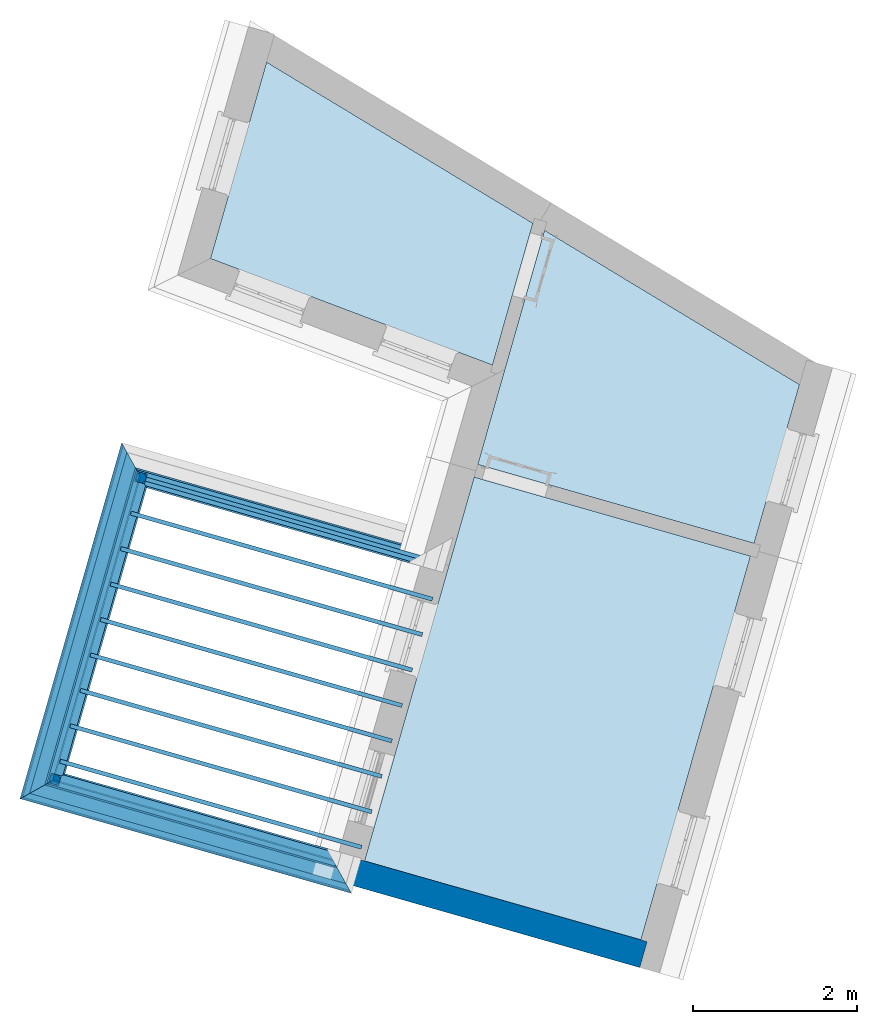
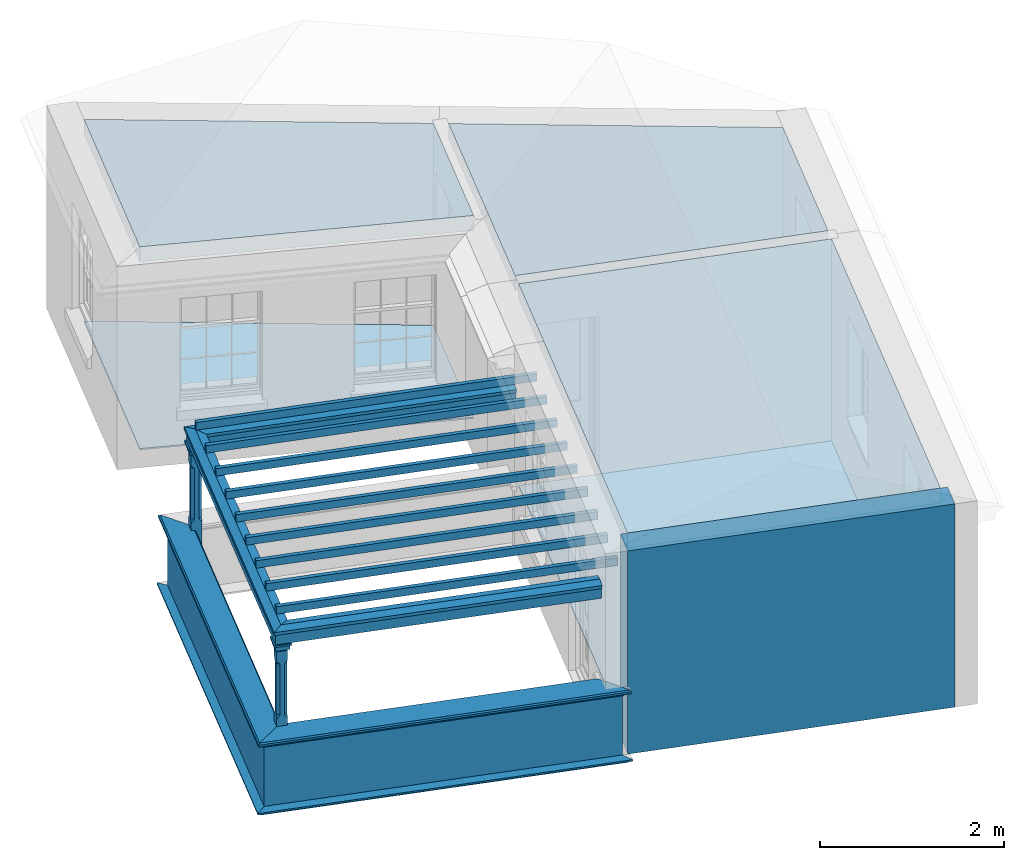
# One storey, part 1 of 5: 15 beams, 7 walls, 5 slabs, 2 columns.
"""IFC4 building model written with IfcOpenShell, lengths in metres."""

from ifc_helpers import new_model, si_unit, frame, origin, origin_with_axes, place, context, subcontext, project, spatial, polyline, outline, extrude, clip, halfspace, faceted_brep, source, transform, mapped, material, layer, layer_set, layer_usage, material_profile, profile_set, profile_usage, type_object, type_shapes, element, save


model = new_model("IFC4")

# Units and contexts
model_context = context("Model", 3, world=origin_with_axes())
body_context = subcontext(model_context, "Body", "Model", "MODEL_VIEW")
ifc_project = project(units=[si_unit("PLANEANGLEUNIT", "RADIAN"), si_unit("MASSUNIT", "GRAM", prefix="KILO"), si_unit("FORCEUNIT", "NEWTON", prefix="KILO"), si_unit("LENGTHUNIT", "METRE"), si_unit("AREAUNIT", "SQUARE_METRE"), si_unit("VOLUMEUNIT", "CUBIC_METRE")], contexts=[model_context, model_context])

# Sites, building, storey
site_1_placement = place(None, origin_with_axes())
site_1 = spatial("IfcSite", under=ifc_project, at=site_1_placement, Name="Tamar")
site_2_placement = place(site_1_placement, origin_with_axes())
site_2 = spatial("IfcSite", under=site_1, at=site_2_placement, Name="Site plot-19", CompositionType="ELEMENT")
building_placement = place(None, origin_with_axes())
building = spatial("IfcBuilding", under=site_2, at=building_placement, Name="Building plot-19", CompositionType="ELEMENT")
storey_placement = place(None, frame((0.0, 0.0, 30.4), z_axis=(0.0, 0.0, 1.0), x_axis=(1.0, 0.0, 0.0)))
storey = spatial("IfcBuildingStorey", under=building, at=storey_placement, Name="plot-19 1", CompositionType="ELEMENT", Elevation=30.4)

# Columns
column_type = type_object("IfcColumnType", Name="pergola post", PredefinedType="NOTDEFINED")
shared_shape = source(origin(), body_context, "Body", "Brep", [
    faceted_brep([(0.0246, -0.0615, 1.72), (0.0615, -0.0246, 1.72), (0.0615, -0.0615, 1.766667), (0.0615, -0.0246, 1.044444), (0.0246, -0.0615, 1.044444), (0.0615, 0.0246, 1.72), (0.0615, 0.0615, 1.766667), (-0.0246, -0.0615, 1.72), (-0.0615, -0.0615, 1.766667), (-0.0246, -0.0615, 1.044444), (0.0615, -0.0615, 0.997778), (0.0615, 0.0246, 1.044444), (0.0246, 0.0615, 1.72), (0.0615, 0.0615, 1.891111), (0.0615, -0.0615, 1.891111), (-0.0615, -0.0615, 1.891111), (-0.0615, -0.0246, 1.72), (-0.0615, -0.0246, 1.044444), (-0.0615, -0.0615, 0.997778), (0.0615, 0.0615, 0.997778), (0.0246, 0.0615, 1.044444), (-0.0246, 0.0615, 1.72), (-0.0615, 0.0615, 1.766667), (0.04305, 0.04305, 1.891111), (0.04305, -0.04305, 1.891111), (-0.0615, 0.0615, 1.891111), (-0.04305, -0.04305, 1.891111), (-0.0615, 0.0246, 1.72), (-0.0615, 0.0246, 1.044444), (0.0615, -0.0615, 0.053333), (-0.0615, -0.0615, 0.053333), (0.0615, 0.0615, 0.053333), (-0.0246, 0.0615, 1.044444), (-0.04305, 0.04305, 1.891111), (0.04305, 0.04305, 1.914444), (0.04305, -0.04305, 1.914444), (-0.04305, -0.04305, 1.914444), (-0.0615, 0.0615, 0.997778), (-0.0615, 0.0615, 0.053333), (-0.04305, -0.04305, 0.053333), (0.04305, -0.04305, 0.053333), (0.04305, 0.04305, 0.053333), (-0.04305, 0.04305, 1.914444), (0.07995, 0.07995, 1.914444), (0.07995, -0.07995, 1.914444), (-0.07995, -0.07995, 1.914444), (-0.04305, 0.04305, 0.053333), (-0.04305, -0.04305, 0.0), (0.04305, -0.04305, 0.0), (0.04305, 0.04305, 0.0), (-0.07995, 0.07995, 1.914444), (0.07995, 0.07995, 1.976667), (0.07995, -0.07995, 1.976667), (-0.07995, -0.07995, 1.976667), (-0.04305, 0.04305, 0.0), (-0.07995, 0.07995, 1.976667), (0.0984, 0.0984, 1.976667), (0.0984, -0.0984, 1.976667), (-0.0984, -0.0984, 1.976667), (-0.0984, 0.0984, 1.976667), (0.0984, 0.0984, 2.0), (0.0984, -0.0984, 2.0), (-0.0984, -0.0984, 2.0), (-0.0984, 0.0984, 2.0)], [[[0, 1, 2]], [[3, 1, 0, 4]], [[1, 5, 6, 2]], [[7, 0, 2, 8]], [[4, 0, 7, 9]], [[3, 4, 10]], [[1, 3, 11, 5]], [[5, 12, 6]], [[13, 14, 2, 6]], [[15, 8, 2, 14]], [[8, 16, 7]], [[9, 7, 16, 17]], [[9, 18, 10, 4]], [[3, 10, 19, 11]], [[20, 12, 5, 11]], [[21, 22, 6, 12]], [[14, 13, 23, 24]], [[13, 6, 22, 25]], [[25, 22, 8, 15]], [[26, 15, 14, 24]], [[16, 8, 22, 27]], [[27, 28, 17, 16]], [[17, 18, 9]], [[29, 10, 18, 30]], [[31, 19, 10, 29]], [[20, 11, 19]], [[12, 20, 32, 21]], [[21, 27, 22]], [[33, 23, 13, 25]], [[23, 34, 35, 24]], [[26, 33, 25, 15]], [[36, 26, 24, 35]], [[28, 27, 21, 32]], [[17, 28, 37, 18]], [[38, 30, 18, 37]], [[29, 30, 39, 40]], [[31, 38, 37, 19]], [[40, 41, 31, 29]], [[32, 20, 19, 37]], [[33, 42, 34, 23]], [[43, 44, 35, 34]], [[42, 33, 26, 36]], [[36, 35, 44, 45]], [[28, 32, 37]], [[46, 39, 30, 38]], [[39, 47, 48, 40]], [[46, 38, 31, 41]], [[49, 41, 40, 48]], [[43, 34, 42, 50]], [[43, 51, 52, 44]], [[45, 50, 42, 36]], [[53, 45, 44, 52]], [[46, 54, 47, 39]], [[54, 46, 41, 49]], [[50, 55, 51, 43]], [[56, 57, 52, 51]], [[55, 50, 45, 53]], [[53, 52, 57, 58]], [[56, 51, 55, 59]], [[56, 60, 61, 57]], [[58, 59, 55, 53]], [[62, 58, 57, 61]], [[59, 63, 60, 56]], [[63, 62, 61, 60]], [[58, 62, 63, 59]], [[47, 54, 49, 48]]]),
])
type_shapes(column_type, [shared_shape])
for number, where, z_axis, x_axis, name in (
    (1, (276.374981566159, 299.095240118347, 0.0), (0.0, 0.0, 1.0), (-0.27456811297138, -0.961567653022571, 0.0), "pergola post"),
    (2, (275.323290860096, 295.412103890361, 0.0), (0.0, 0.0, 1.0), (0.961567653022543, -0.274568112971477, 0.0), "pergola post"),
):
    element("IfcColumn", number, at=place(storey_placement, frame(where, z_axis=z_axis, x_axis=x_axis)), inside=storey, type_object=column_type, Name=name, context=body_context, shape_type="MappedRepresentation", body=[
        mapped(shared_shape, transform((0.0, 0.0, 0.0), scale=1.0)),
    ])

# Beams
ifc_material_profile_1 = material_profile(None, outline(polyline([(-0.08, -0.7), (0.08, -0.7), (0.08, -0.56), (-0.08, -0.56), (-0.08, -0.7)])))
ifc_profile_set_1 = profile_set([ifc_material_profile_1])
ifc_profile_usage_1 = profile_usage(ifc_profile_set_1)
beam_type_1 = type_object("IfcBeamType", Name="pergola beam_0", PredefinedType="NOTDEFINED", material=ifc_profile_set_1)
beam_1_placement = place(storey_placement, frame((275.413413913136, 299.369808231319, 2.7), z_axis=(0.96156765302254, -0.27456811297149, 0.0), x_axis=(0.27456811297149, 0.96156765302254, 0.0)))
element("IfcBeam", 3, at=beam_1_placement, inside=storey, type_object=beam_type_1, material=ifc_profile_usage_1, Name="pergola beam_0", context=body_context, shape_type="Clipping", body=[
    clip(clip(extrude(outline(polyline([(-0.08, -0.7), (0.08, -0.7), (0.08, -0.56), (-0.08, -0.56), (-0.08, -0.7)])), origin_with_axes(), (0.0, 0.0, 1.0), 5.57875062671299), halfspace(frame((0.0, 0.0, 4.57875062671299), z_axis=(1.72582468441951e-14, 0.0, -1.0), x_axis=(0.0, 1.0, 0.0)), True)), halfspace(frame((0.0, 0.0, 1.0), z_axis=(-0.707106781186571, 0.0, -0.707106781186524), x_axis=(0.0, 1.0, 0.0)), False)),
])
ifc_profile_usage_2 = profile_usage(ifc_profile_set_1)
beam_2_placement = place(storey_placement, frame((275.048722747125, 294.450536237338, 2.7), z_axis=(0.274568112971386, 0.961567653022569, 0.0), x_axis=(-0.961567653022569, 0.274568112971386, 0.0)))
element("IfcBeam", 4, at=beam_2_placement, inside=storey, type_object=beam_type_1, material=ifc_profile_usage_2, Name="pergola beam_0", context=body_context, shape_type="Clipping", body=[
    clip(clip(extrude(outline(polyline([(-0.08, -0.7), (0.08, -0.7), (0.08, -0.56), (-0.08, -0.56), (-0.08, -0.7)])), origin_with_axes(), (0.0, 0.0, 1.0), 5.83034539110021), halfspace(frame((0.0, 0.0, 4.83034539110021), z_axis=(0.7071067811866, 0.0, -0.707106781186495), x_axis=(0.0, 1.0, 0.0)), True)), halfspace(frame((0.0, 0.0, 1.0), z_axis=(-0.707106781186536, 0.0, -0.707106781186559), x_axis=(0.0, 1.0, 0.0)), False)),
])
ifc_profile_usage_3 = profile_usage(ifc_profile_set_1)
beam_3_placement = place(storey_placement, frame((279.726069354, 294.154924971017, 2.7), z_axis=(-0.961567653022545, 0.274568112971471, 0.0), x_axis=(-0.274568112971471, -0.961567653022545, 0.0)))
element("IfcBeam", 5, at=beam_3_placement, inside=storey, type_object=beam_type_1, material=ifc_profile_usage_3, Name="pergola beam_0", context=body_context, shape_type="Clipping", body=[
    clip(clip(extrude(outline(polyline([(-0.08, -0.7), (0.08, -0.7), (0.08, -0.56), (-0.08, -0.56), (-0.08, -0.7)])), origin_with_axes(), (0.0, 0.0, 1.0), 5.57875062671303), halfspace(frame((0.0, 0.0, 4.57875062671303), z_axis=(0.707106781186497, 0.0, -0.707106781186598), x_axis=(0.0, 1.0, 0.0)), True)), halfspace(frame((0.0, 0.0, 1.0), z_axis=(-1.80468453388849e-14, 0.0, -1.0), x_axis=(0.0, 1.0, 0.0)), False)),
])
ifc_material_profile_2 = material_profile(None, outline(polyline([(0.0, -0.5), (-0.1, -0.52), (-0.1, -0.56), (0.1, -0.56), (0.1, -0.52), (0.0, -0.5)])))
ifc_profile_set_2 = profile_set([ifc_material_profile_2])
ifc_profile_usage_4 = profile_usage(ifc_profile_set_2)
beam_type_2 = type_object("IfcBeamType", Name="pergola beam_1", PredefinedType="NOTDEFINED", material=ifc_profile_set_2)
beam_4_placement = place(storey_placement, frame((275.413413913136, 299.369808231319, 2.7), z_axis=(0.96156765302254, -0.27456811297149, 0.0), x_axis=(0.27456811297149, 0.96156765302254, 0.0)))
element("IfcBeam", 6, at=beam_4_placement, inside=storey, type_object=beam_type_2, material=ifc_profile_usage_4, Name="pergola beam_1", context=body_context, shape_type="Clipping", body=[
    clip(clip(extrude(outline(polyline([(0.0, -0.5), (-0.1, -0.52), (-0.1, -0.56), (0.1, -0.56), (0.1, -0.52), (0.0, -0.5)])), origin_with_axes(), (0.0, 0.0, 1.0), 5.57875062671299), halfspace(frame((0.0, 0.0, 4.57875062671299), z_axis=(1.72582468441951e-14, 0.0, -1.0), x_axis=(0.0, 1.0, 0.0)), True)), halfspace(frame((0.0, 0.0, 1.0), z_axis=(-0.707106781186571, 0.0, -0.707106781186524), x_axis=(0.0, 1.0, 0.0)), False)),
])
ifc_profile_usage_5 = profile_usage(ifc_profile_set_2)
beam_5_placement = place(storey_placement, frame((275.048722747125, 294.450536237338, 2.7), z_axis=(0.274568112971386, 0.961567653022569, 0.0), x_axis=(-0.961567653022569, 0.274568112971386, 0.0)))
element("IfcBeam", 7, at=beam_5_placement, inside=storey, type_object=beam_type_2, material=ifc_profile_usage_5, Name="pergola beam_1", context=body_context, shape_type="Clipping", body=[
    clip(clip(extrude(outline(polyline([(0.0, -0.5), (-0.1, -0.52), (-0.1, -0.56), (0.1, -0.56), (0.1, -0.52), (0.0, -0.5)])), origin_with_axes(), (0.0, 0.0, 1.0), 5.83034539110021), halfspace(frame((0.0, 0.0, 4.83034539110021), z_axis=(0.7071067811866, 0.0, -0.707106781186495), x_axis=(0.0, 1.0, 0.0)), True)), halfspace(frame((0.0, 0.0, 1.0), z_axis=(-0.707106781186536, 0.0, -0.707106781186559), x_axis=(0.0, 1.0, 0.0)), False)),
])
ifc_profile_usage_6 = profile_usage(ifc_profile_set_2)
beam_6_placement = place(storey_placement, frame((279.726069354, 294.154924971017, 2.7), z_axis=(-0.961567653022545, 0.274568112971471, 0.0), x_axis=(-0.274568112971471, -0.961567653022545, 0.0)))
element("IfcBeam", 8, at=beam_6_placement, inside=storey, type_object=beam_type_2, material=ifc_profile_usage_6, Name="pergola beam_1", context=body_context, shape_type="Clipping", body=[
    clip(clip(extrude(outline(polyline([(0.0, -0.5), (-0.1, -0.52), (-0.1, -0.56), (0.1, -0.56), (0.1, -0.52), (0.0, -0.5)])), origin_with_axes(), (0.0, 0.0, 1.0), 5.57875062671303), halfspace(frame((0.0, 0.0, 4.57875062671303), z_axis=(0.707106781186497, 0.0, -0.707106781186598), x_axis=(0.0, 1.0, 0.0)), True)), halfspace(frame((0.0, 0.0, 1.0), z_axis=(-1.80468453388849e-14, 0.0, -1.0), x_axis=(0.0, 1.0, 0.0)), False)),
])
beam_7_placement = place(storey_placement, frame((276.381845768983, 299.119279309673, 2.2)))
element("IfcBeam", 9, at=beam_7_placement, inside=storey, Name="My Beam", ObjectType="Beam", context=body_context, shape_type="SweptSolid", body=[
    extrude(outline(polyline([(0.0, 0.0), (-0.0137284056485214, -0.0480783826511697), (3.66787434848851, -1.09933121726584), (3.68160275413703, -1.05125283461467), (0.0, 0.0)])), origin_with_axes(), (0.0, 0.0, 1.0), 0.1),
])
beam_8_placement = place(storey_placement, frame((276.258290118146, 298.686573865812, 2.2)))
element("IfcBeam", 10, at=beam_8_placement, inside=storey, Name="My Beam", ObjectType="Beam", context=body_context, shape_type="SweptSolid", body=[
    extrude(outline(polyline([(0.0, 0.0), (-0.0137284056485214, -0.0480783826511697), (3.66787434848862, -1.09933121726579), (3.68160275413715, -1.05125283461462), (0.0, 0.0)])), origin_with_axes(), (0.0, 0.0, 1.0), 0.1),
])
for number, where, name in (
    (11, (276.134734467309, 298.253868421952, 2.2), "My Beam"),
    (12, (276.011178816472, 297.821162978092, 2.2), "My Beam"),
):
    element("IfcBeam", number, at=place(storey_placement, frame(where)), inside=storey, Name=name, ObjectType="Beam", context=body_context, shape_type="SweptSolid", body=[
        extrude(outline(polyline([(0.0, 0.0), (-0.0137284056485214, -0.0480783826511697), (3.66787434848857, -1.09933121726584), (3.68160275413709, -1.05125283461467), (0.0, 0.0)])), origin_with_axes(), (0.0, 0.0, 1.0), 0.1),
    ])
beam_9_placement = place(storey_placement, frame((275.887623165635, 297.388457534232, 2.2)))
element("IfcBeam", 13, at=beam_9_placement, inside=storey, Name="My Beam", ObjectType="Beam", context=body_context, shape_type="SweptSolid", body=[
    extrude(outline(polyline([(0.0, 0.0), (-0.0137284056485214, -0.0480783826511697), (3.66787434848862, -1.0993312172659), (3.68160275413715, -1.05125283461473), (0.0, 0.0)])), origin_with_axes(), (0.0, 0.0, 1.0), 0.1),
])
for number, where, name in (
    (14, (275.764067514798, 296.955752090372, 2.2), "My Beam"),
    (15, (275.640511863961, 296.523046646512, 2.2), "My Beam"),
):
    element("IfcBeam", number, at=place(storey_placement, frame(where)), inside=storey, Name=name, ObjectType="Beam", context=body_context, shape_type="SweptSolid", body=[
        extrude(outline(polyline([(0.0, 0.0), (-0.0137284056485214, -0.0480783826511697), (3.66787434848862, -1.09933121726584), (3.68160275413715, -1.05125283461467), (0.0, 0.0)])), origin_with_axes(), (0.0, 0.0, 1.0), 0.1),
    ])
beam_10_placement = place(storey_placement, frame((275.516956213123, 296.090341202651, 2.2)))
element("IfcBeam", 16, at=beam_10_placement, inside=storey, Name="My Beam", ObjectType="Beam", context=body_context, shape_type="SweptSolid", body=[
    extrude(outline(polyline([(0.0, 0.0), (-0.0137284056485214, -0.0480783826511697), (3.66787434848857, -1.09933121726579), (3.68160275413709, -1.05125283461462), (0.0, 0.0)])), origin_with_axes(), (0.0, 0.0, 1.0), 0.1),
])
beam_11_placement = place(storey_placement, frame((275.393400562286, 295.657635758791, 2.2)))
element("IfcBeam", 17, at=beam_11_placement, inside=storey, Name="My Beam", ObjectType="Beam", context=body_context, shape_type="SweptSolid", body=[
    extrude(outline(polyline([(0.0, 0.0), (-0.0137284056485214, -0.0480783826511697), (3.66787434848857, -1.09933121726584), (3.68160275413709, -1.05125283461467), (0.0, 0.0)])), origin_with_axes(), (0.0, 0.0, 1.0), 0.1),
])

# Slabs
slab_1_placement = place(storey_placement, frame((281.302675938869, 302.116570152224, 2.5)))
element("IfcSlab", 18, at=slab_1_placement, inside=storey, Name="My Slab", ObjectType="Slab", PredefinedType="FLOOR", context=body_context, shape_type="SweptSolid", body=[
    extrude(outline(polyline([(0.0, 0.0), (-0.816473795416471, -2.85938080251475), (2.55983002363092, -3.82345791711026), (3.11362460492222, -1.88400853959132), (0.0, 0.0)])), origin_with_axes(), (0.0, 0.0, 1.0), 0.2),
])
slab_2_placement = place(storey_placement, frame((277.222280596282, 301.771207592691, 2.5)))
element("IfcSlab", 19, at=slab_2_placement, inside=storey, Name="My Slab", ObjectType="Slab", PredefinedType="FLOOR", context=body_context, shape_type="SweptSolid", body=[
    extrude(outline(polyline([(0.0, 0.0), (3.44402038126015, -1.30055900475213), (3.93851423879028, 0.431212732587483), (0.685224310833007, 2.39973070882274), (0.0, 0.0)])), origin_with_axes(), (0.0, 0.0, 1.0), 0.2),
])
slab_3_placement = place(storey_placement, frame((277.222280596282, 301.771207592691, 0.0)))
element("IfcSlab", 20, at=slab_3_placement, inside=storey, Name="My Slab", ObjectType="Slab", PredefinedType="FLOOR", context=body_context, shape_type="SweptSolid", body=[
    extrude(outline(polyline([(0.0, 0.0), (3.44402038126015, -1.30055900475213), (3.93851423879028, 0.431212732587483), (0.685224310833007, 2.39973070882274), (0.0, 0.0)])), origin_with_axes(), (0.0, 0.0, 1.0), 0.02),
])
slab_4_placement = place(storey_placement, frame((280.442271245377, 299.103338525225, 2.5)))
element("IfcSlab", 21, at=slab_4_placement, inside=storey, Name="My Slab", ObjectType="Slab", PredefinedType="FLOOR", context=body_context, shape_type="SweptSolid", body=[
    extrude(outline(polyline([(0.0, 0.0), (-1.33848676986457, -4.68752750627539), (2.03781704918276, -5.65160462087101), (3.37630381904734, -0.964077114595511), (0.0, 0.0)])), origin_with_axes(), (0.0, 0.0, 1.0), 0.2),
])
slab_5_placement = place(storey_placement, frame((280.442271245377, 299.103338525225, 0.0)))
element("IfcSlab", 22, at=slab_5_placement, inside=storey, Name="My Slab", ObjectType="Slab", PredefinedType="FLOOR", context=body_context, shape_type="SweptSolid", body=[
    extrude(outline(polyline([(0.0, 0.0), (-1.33848676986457, -4.68752750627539), (2.03781704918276, -5.65160462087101), (3.37630381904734, -0.964077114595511), (0.0, 0.0)])), origin_with_axes(), (0.0, 0.0, 1.0), 0.02),
])

# Walls
ifc_material = material(Name="Masonry")
ifc_layer = layer(ifc_material, 0.33, ventilated=False)
ifc_layer_set = layer_set([ifc_layer], Name="party_0.08_0.25")
ifc_layer_usage = layer_usage(ifc_layer_set, "AXIS2", "POSITIVE", -0.25)
wall_type_1 = type_object("IfcWallType", Name="party_0.08_0.25", PredefinedType="SOLIDWALL", material=ifc_layer_set)
wall_1_placement = place(storey_placement, frame((279.004893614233, 294.360851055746, 0.0), z_axis=(0.0, 0.0, 1.0), x_axis=(0.961567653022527, -0.274568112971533, 0.0)))
element("IfcWall", 23, at=wall_1_placement, inside=storey, type_object=wall_type_1, material=ifc_layer_usage, Name="party", context=body_context, shape_type="SweptSolid", body=[
    extrude(outline(polyline([(1.62052729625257e-14, 0.079999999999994), (-1.07040652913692e-14, -0.249999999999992), (3.67124937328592, -0.249999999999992), (3.67124937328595, 0.079999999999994), (1.62052729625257e-14, 0.079999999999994)])), origin_with_axes(), (0.0, 0.0, 1.0), 2.7),
])
ifc_material_profile_3 = material_profile(None, outline(polyline([(0.25, 0.0), (0.25, 0.795), (0.09, 0.795), (0.09, 0.02), (-0.08, 0.02), (-0.08, 0.0), (0.25, 0.0)])))
ifc_profile_set_3 = profile_set([ifc_material_profile_3])
ifc_profile_usage_7 = profile_usage(ifc_profile_set_3)
wall_type_2 = type_object("IfcWallType", Name="parapet_0", PredefinedType="PARAPET", material=ifc_profile_set_3)
wall_2_placement = place(storey_placement, frame((275.048722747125, 294.450536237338, 0.0), z_axis=(0.274568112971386, 0.961567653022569, 0.0), x_axis=(-0.961567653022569, 0.274568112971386, 0.0)))
element("IfcWall", 24, at=wall_2_placement, inside=storey, type_object=wall_type_2, material=ifc_profile_usage_7, Name="parapet_0", context=body_context, shape_type="Clipping", body=[
    clip(clip(extrude(outline(polyline([(0.25, 0.0), (0.25, 0.795), (0.09, 0.795), (0.09, 0.02), (-0.08, 0.02), (-0.08, 0.0), (0.25, 0.0)])), origin_with_axes(), (0.0, 0.0, 1.0), 5.83034539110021), halfspace(frame((0.0, 0.0, 4.83034539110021), z_axis=(0.7071067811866, 0.0, -0.707106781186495), x_axis=(0.0, 1.0, 0.0)), True)), halfspace(frame((0.0, 0.0, 1.0), z_axis=(-0.707106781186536, 0.0, -0.707106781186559), x_axis=(0.0, 1.0, 0.0)), False)),
])
ifc_profile_usage_8 = profile_usage(ifc_profile_set_3)
wall_3_placement = place(storey_placement, frame((279.668375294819, 294.171399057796, 0.0), z_axis=(-0.961567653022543, 0.274568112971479, 0.0), x_axis=(-0.274568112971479, -0.961567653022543, 0.0)))
element("IfcWall", 25, at=wall_3_placement, inside=storey, type_object=wall_type_2, material=ifc_profile_usage_8, Name="parapet_0", context=body_context, shape_type="Clipping", body=[
    clip(clip(extrude(outline(polyline([(0.25, 0.0), (0.25, 0.795), (0.09, 0.795), (0.09, 0.02), (-0.08, 0.02), (-0.08, 0.0), (0.25, 0.0)])), origin_with_axes(), (0.0, 0.0, 1.0), 5.51875062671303), halfspace(frame((0.0, 0.0, 4.51875062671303), z_axis=(0.707106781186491, 0.0, -0.707106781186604), x_axis=(0.0, 1.0, 0.0)), True)), halfspace(frame((0.0, 0.0, 1.0), z_axis=(-0.707106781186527, 0.0, -0.707106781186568), x_axis=(0.0, 1.0, 0.0)), False)),
])
ifc_material_profile_4 = material_profile(None, outline(polyline([(0.265, 0.795), (0.268, 0.807), (0.274, 0.816), (0.283, 0.822), (0.295, 0.825), (0.295, 0.84), (0.305, 0.84), (0.317, 0.842), (0.326, 0.849), (0.333, 0.858), (0.335, 0.87), (0.333, 0.882), (0.326, 0.891), (0.317, 0.898), (0.305, 0.9), (0.035, 0.9), (0.023, 0.898), (0.014, 0.891), (0.007, 0.882), (0.005, 0.87), (0.007, 0.858), (0.014, 0.849), (0.023, 0.842), (0.035, 0.84), (0.045, 0.84), (0.045, 0.825), (0.057, 0.822), (0.066, 0.816), (0.072, 0.807), (0.075, 0.795), (0.265, 0.795)])))
ifc_profile_set_4 = profile_set([ifc_material_profile_4])
ifc_profile_usage_9 = profile_usage(ifc_profile_set_4)
wall_type_3 = type_object("IfcWallType", Name="parapet_1", PredefinedType="PARAPET", material=ifc_profile_set_4)
wall_4_placement = place(storey_placement, frame((275.048722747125, 294.450536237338, 0.0), z_axis=(0.274568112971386, 0.961567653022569, 0.0), x_axis=(-0.961567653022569, 0.274568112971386, 0.0)))
element("IfcWall", 26, at=wall_4_placement, inside=storey, type_object=wall_type_3, material=ifc_profile_usage_9, Name="parapet_1", context=body_context, shape_type="Clipping", body=[
    clip(clip(extrude(outline(polyline([(0.265, 0.795), (0.268, 0.807), (0.274, 0.816), (0.283, 0.822), (0.295, 0.825), (0.295, 0.84), (0.305, 0.84), (0.317, 0.842), (0.326, 0.849), (0.333, 0.858), (0.335, 0.87), (0.333, 0.882), (0.326, 0.891), (0.317, 0.898), (0.305, 0.9), (0.035, 0.9), (0.023, 0.898), (0.014, 0.891), (0.007, 0.882), (0.005, 0.87), (0.007, 0.858), (0.014, 0.849), (0.023, 0.842), (0.035, 0.84), (0.045, 0.84), (0.045, 0.825), (0.057, 0.822), (0.066, 0.816), (0.072, 0.807), (0.075, 0.795), (0.265, 0.795)])), origin_with_axes(), (0.0, 0.0, 1.0), 5.83034539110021), halfspace(frame((0.0, 0.0, 4.83034539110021), z_axis=(0.7071067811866, 0.0, -0.707106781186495), x_axis=(0.0, 1.0, 0.0)), True)), halfspace(frame((0.0, 0.0, 1.0), z_axis=(-0.707106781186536, 0.0, -0.707106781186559), x_axis=(0.0, 1.0, 0.0)), False)),
])
ifc_profile_usage_10 = profile_usage(ifc_profile_set_4)
wall_5_placement = place(storey_placement, frame((279.668375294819, 294.171399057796, 0.0), z_axis=(-0.961567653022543, 0.274568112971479, 0.0), x_axis=(-0.274568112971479, -0.961567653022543, 0.0)))
element("IfcWall", 27, at=wall_5_placement, inside=storey, type_object=wall_type_3, material=ifc_profile_usage_10, Name="parapet_1", context=body_context, shape_type="Clipping", body=[
    clip(clip(extrude(outline(polyline([(0.265, 0.795), (0.268, 0.807), (0.274, 0.816), (0.283, 0.822), (0.295, 0.825), (0.295, 0.84), (0.305, 0.84), (0.317, 0.842), (0.326, 0.849), (0.333, 0.858), (0.335, 0.87), (0.333, 0.882), (0.326, 0.891), (0.317, 0.898), (0.305, 0.9), (0.035, 0.9), (0.023, 0.898), (0.014, 0.891), (0.007, 0.882), (0.005, 0.87), (0.007, 0.858), (0.014, 0.849), (0.023, 0.842), (0.035, 0.84), (0.045, 0.84), (0.045, 0.825), (0.057, 0.822), (0.066, 0.816), (0.072, 0.807), (0.075, 0.795), (0.265, 0.795)])), origin_with_axes(), (0.0, 0.0, 1.0), 5.51875062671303), halfspace(frame((0.0, 0.0, 4.51875062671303), z_axis=(0.707106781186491, 0.0, -0.707106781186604), x_axis=(0.0, 1.0, 0.0)), True)), halfspace(frame((0.0, 0.0, 1.0), z_axis=(-0.707106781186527, 0.0, -0.707106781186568), x_axis=(0.0, 1.0, 0.0)), False)),
])
ifc_material_profile_5 = material_profile(None, outline(polyline([(0.25, -0.1), (0.265, -0.1), (0.265, -0.085), (0.278, -0.084), (0.289, -0.081), (0.301, -0.074), (0.309, -0.065), (0.315, -0.055), (0.324, -0.044), (0.334, -0.038), (0.345, -0.035), (0.345, -0.015), (0.25, 0.0), (0.25, -0.1)])))
ifc_profile_set_5 = profile_set([ifc_material_profile_5])
ifc_profile_usage_11 = profile_usage(ifc_profile_set_5)
wall_type_4 = type_object("IfcWallType", Name="parapet_2", PredefinedType="PARAPET", material=ifc_profile_set_5)
wall_6_placement = place(storey_placement, frame((275.048722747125, 294.450536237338, 0.0), z_axis=(0.274568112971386, 0.961567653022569, 0.0), x_axis=(-0.961567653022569, 0.274568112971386, 0.0)))
element("IfcWall", 28, at=wall_6_placement, inside=storey, type_object=wall_type_4, material=ifc_profile_usage_11, Name="parapet_2", context=body_context, shape_type="Clipping", body=[
    clip(clip(extrude(outline(polyline([(0.25, -0.1), (0.265, -0.1), (0.265, -0.085), (0.278, -0.084), (0.289, -0.081), (0.301, -0.074), (0.309, -0.065), (0.315, -0.055), (0.324, -0.044), (0.334, -0.038), (0.345, -0.035), (0.345, -0.015), (0.25, 0.0), (0.25, -0.1)])), origin_with_axes(), (0.0, 0.0, 1.0), 5.83034539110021), halfspace(frame((0.0, 0.0, 4.83034539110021), z_axis=(0.7071067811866, 0.0, -0.707106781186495), x_axis=(0.0, 1.0, 0.0)), True)), halfspace(frame((0.0, 0.0, 1.0), z_axis=(-0.707106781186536, 0.0, -0.707106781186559), x_axis=(0.0, 1.0, 0.0)), False)),
])
ifc_profile_usage_12 = profile_usage(ifc_profile_set_5)
wall_7_placement = place(storey_placement, frame((279.668375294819, 294.171399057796, 0.0), z_axis=(-0.961567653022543, 0.274568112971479, 0.0), x_axis=(-0.274568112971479, -0.961567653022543, 0.0)))
element("IfcWall", 29, at=wall_7_placement, inside=storey, type_object=wall_type_4, material=ifc_profile_usage_12, Name="parapet_2", context=body_context, shape_type="Clipping", body=[
    clip(clip(extrude(outline(polyline([(0.25, -0.1), (0.265, -0.1), (0.265, -0.085), (0.278, -0.084), (0.289, -0.081), (0.301, -0.074), (0.309, -0.065), (0.315, -0.055), (0.324, -0.044), (0.334, -0.038), (0.345, -0.035), (0.345, -0.015), (0.25, 0.0), (0.25, -0.1)])), origin_with_axes(), (0.0, 0.0, 1.0), 5.51875062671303), halfspace(frame((0.0, 0.0, 4.51875062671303), z_axis=(0.707106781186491, 0.0, -0.707106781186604), x_axis=(0.0, 1.0, 0.0)), True)), halfspace(frame((0.0, 0.0, 1.0), z_axis=(-0.707106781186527, 0.0, -0.707106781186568), x_axis=(0.0, 1.0, 0.0)), False)),
])

save(model, "model.ifc")
